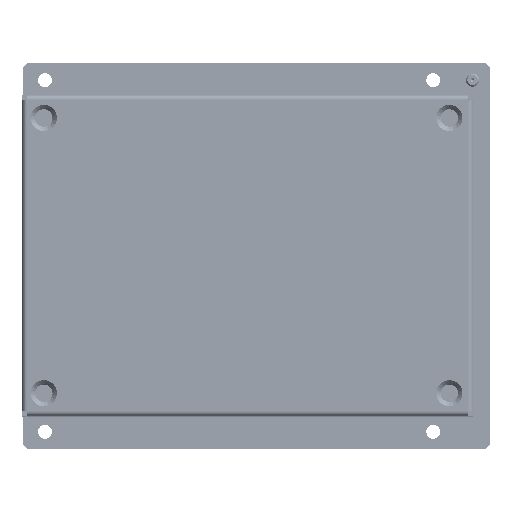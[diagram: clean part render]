
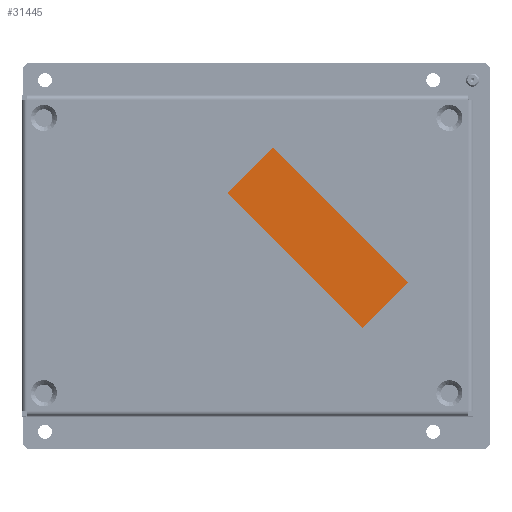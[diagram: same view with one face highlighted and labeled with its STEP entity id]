
A CAD part, top view. The second image highlights one B-rep face of the part: STEP entity #31445.
In plain terms, the highlighted planar face has unit normal (0, 0, 1) as drawn and (0, 1, 0) by its records, which use the part's own axes.
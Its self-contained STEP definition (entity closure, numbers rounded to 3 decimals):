
#1611 = VECTOR ( 'NONE', #25468, 1000. ) ;
#25468 = DIRECTION ( 'NONE',  ( -0.707, 0., -0.707 ) ) ;
#27925 = EDGE_CURVE ( 'NONE', #142227, #100794, #333577, .T. ) ;
#31445 = ADVANCED_FACE ( 'NONE', ( #334949 ), #386798, .T. ) ;
#58003 = CARTESIAN_POINT ( 'NONE',  ( 0., 48.1, 0. ) ) ;
#61868 = ORIENTED_EDGE ( 'NONE', *, *, #232341, .T. ) ;
#95030 = CARTESIAN_POINT ( 'NONE',  ( 26.224, 48.1, 16.58 ) ) ;
#100794 = VERTEX_POINT ( 'NONE', #374694 ) ;
#107835 = DIRECTION ( 'NONE',  ( 0.707, 0., -0.707 ) ) ;
#118103 = VECTOR ( 'NONE', #107835, 1000. ) ;
#126932 = DIRECTION ( 'NONE',  ( 0., 1., 0. ) ) ;
#142227 = VERTEX_POINT ( 'NONE', #342879 ) ;
#147245 = VERTEX_POINT ( 'NONE', #282367 ) ;
#172647 = AXIS2_PLACEMENT_3D ( 'NONE', #58003, #126932, #314538 ) ;
#180247 = VERTEX_POINT ( 'NONE', #230885 ) ;
#202361 = ORIENTED_EDGE ( 'NONE', *, *, #343214, .T. ) ;
#215725 = LINE ( 'NONE', #95030, #118103 ) ;
#229996 = VECTOR ( 'NONE', #235549, 1000. ) ;
#230885 = CARTESIAN_POINT ( 'NONE',  ( 26.224, 48.1, 16.58 ) ) ;
#232341 = EDGE_CURVE ( 'NONE', #100794, #180247, #354891, .T. ) ;
#234192 = VECTOR ( 'NONE', #457224, 1000. ) ;
#235549 = DIRECTION ( 'NONE',  ( -0.707, 0., 0.707 ) ) ;
#244383 = ORIENTED_EDGE ( 'NONE', *, *, #27925, .T. ) ;
#282367 = CARTESIAN_POINT ( 'NONE',  ( 36.725, 48.1, 6.079 ) ) ;
#300310 = LINE ( 'NONE', #325346, #1611 ) ;
#306086 = CARTESIAN_POINT ( 'NONE',  ( 5.846, 48.1, -24.8 ) ) ;
#314538 = DIRECTION ( 'NONE',  ( 0., 0., 1. ) ) ;
#325346 = CARTESIAN_POINT ( 'NONE',  ( 36.725, 48.1, 6.079 ) ) ;
#333577 = LINE ( 'NONE', #306086, #229996 ) ;
#334949 = FACE_OUTER_BOUND ( 'NONE', #380045, .T. ) ;
#342879 = CARTESIAN_POINT ( 'NONE',  ( 5.846, 48.1, -24.8 ) ) ;
#343214 = EDGE_CURVE ( 'NONE', #147245, #142227, #300310, .T. ) ;
#343260 = CARTESIAN_POINT ( 'NONE',  ( -4.655, 48.1, -14.299 ) ) ;
#354891 = LINE ( 'NONE', #343260, #234192 ) ;
#365545 = EDGE_CURVE ( 'NONE', #180247, #147245, #215725, .T. ) ;
#374694 = CARTESIAN_POINT ( 'NONE',  ( -4.655, 48.1, -14.299 ) ) ;
#380045 = EDGE_LOOP ( 'NONE', ( #202361, #244383, #61868, #387823 ) ) ;
#386798 = PLANE ( 'NONE',  #172647 ) ;
#387823 = ORIENTED_EDGE ( 'NONE', *, *, #365545, .T. ) ;
#457224 = DIRECTION ( 'NONE',  ( 0.707, 0., 0.707 ) ) ;
